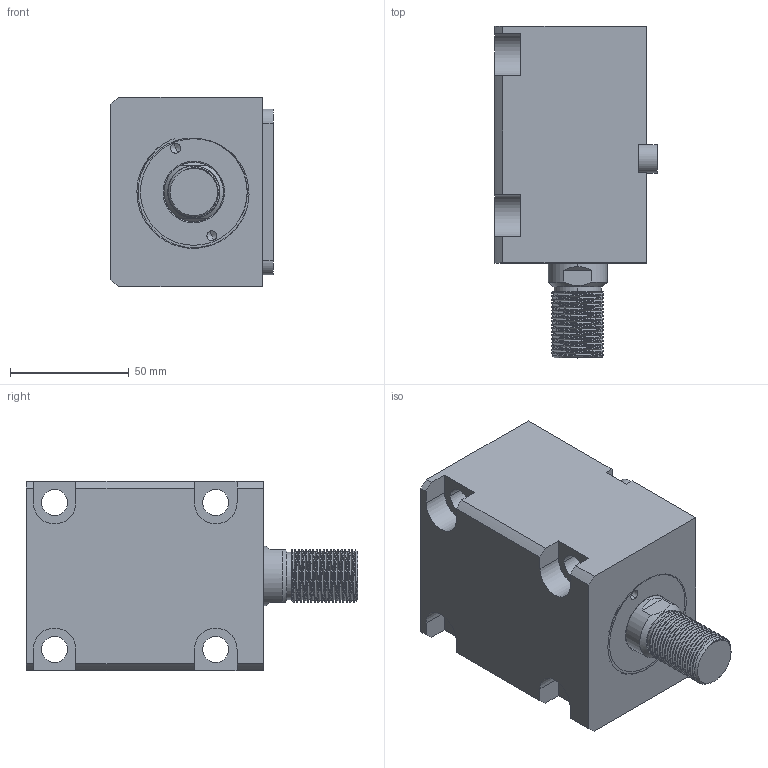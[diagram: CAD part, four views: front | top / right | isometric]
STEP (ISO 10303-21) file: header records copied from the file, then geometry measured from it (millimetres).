
FILE_DESCRIPTION (( 'STEP AP214' ), '1' );
FILE_NAME ('chtb-lam40x45w_asm.STEP', '2018-05-30T02:59:37', ( 'Windows' ), ( 'Microsoft' ), 'SwSTEP 2.0', 'SolidWorks 2015', '' );
FILE_SCHEMA (( 'AUTOMOTIVE_DESIGN' ));
Length unit declared in the file: millimetre
Products named in the file (5): CHTB-SD40X45WHSG; CHTB-SD40QG; CHTB-LAM40X45NBT; CHTB-LA40PJ; chtb-lam40x45w_asm
Assembly tree (4 placements, depth 2):
  chtb-lam40x45w_asm
    CHTB-LA40PJ
    CHTB-LAM40X45NBT
    CHTB-SD40QG
    CHTB-SD40X45WHSG
Bounding box: 68.5 x 140 x 80 mm (x, y, z)
Volume: 458274.7 mm3; surface area: 88462.5 mm2
Topology: 4 solids, 5 shells, 199 faces, 547 edges, 365 vertices
Faces by surface type: cylinder 111, plane 50, bspline 16, torus 12, cone 10
Entity records: 13609 total; most frequent: CARTESIAN_POINT 8674, ORIENTED_EDGE 1082, DIRECTION 894, EDGE_CURVE 541, VERTEX_POINT 365, AXIS2_PLACEMENT_3D 349, EDGE_LOOP 226, ADVANCED_FACE 199
